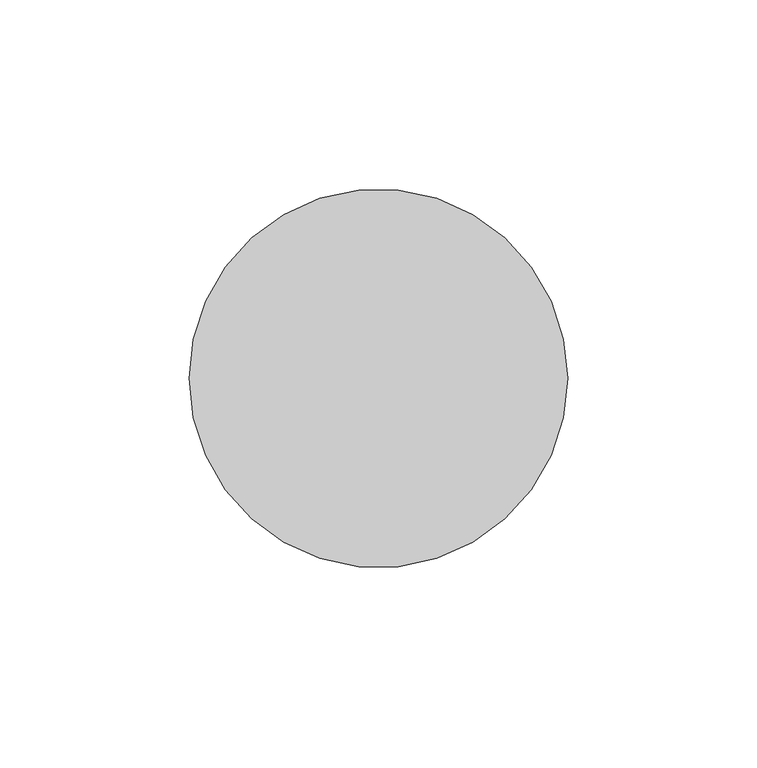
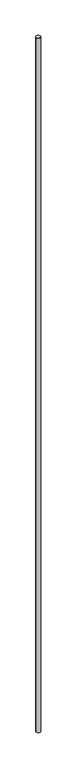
"""IFC4 building model written with IfcOpenShell, lengths in millimetres: proxy geometry, 営_3D_竪樋 : 3D_竪樋."""

from ifc_helpers import new_model, si_unit, point, frame, origin, origin_2d, place, context, project, spatial, circle_curve, trimmed, segment, composite_curve, outline, extrude, source, transform, mapped, element, save


def generic_models_576e4361(model_context):
    return source(origin(), model_context, "Body", "SweptSolid", [
        extrude(outline(composite_curve([segment(trimmed(circle_curve(origin_2d(), 50.0), [point((-50.0, 0.0))], [point((50.0, 0.0))], False, "CARTESIAN"), True, "CONTINUOUS"), segment(trimmed(circle_curve(origin_2d(), 50.0), [point((50.0, 0.0))], [point((-50.0, 0.0))], False, "CARTESIAN"), True, "CONTINUOUS")], self_intersect=False)), frame((0.0, 0.0, -250.0), z_axis=(0.0, 0.0, 1.0), x_axis=(1.0, 0.0, 0.0)), (0.0, 0.0, 1.0), 17050.0),
    ])


if __name__ == "__main__":
    model = new_model("IFC4")
    model_context = context("Model", 3, world=origin())
    ifc_project = project(units=[si_unit("LENGTHUNIT", "METRE", prefix="MILLI")], contexts=[model_context])
    site = spatial("IfcSite", under=ifc_project)
    building = spatial("IfcBuilding", under=site)
    placement = place(None, origin())
    generic_models_shape = generic_models_576e4361(model_context)
    element("IfcBuildingElementProxy", 1, Name="営_3D_竪樋 : 3D_竪樋", ObjectType="営_3D_竪樋 : 3D_竪樋", at=placement, inside=building, context=model_context, shape_type="MappedRepresentation", body=[
        mapped(generic_models_shape, transform((0.0, 0.0, 0.0), x_axis=(1.0, 0.0, 0.0), y_axis=(0.0, 1.0, 0.0), z_axis=(0.0, 0.0, 1.0))),
    ])
    save(model, "model.ifc")
